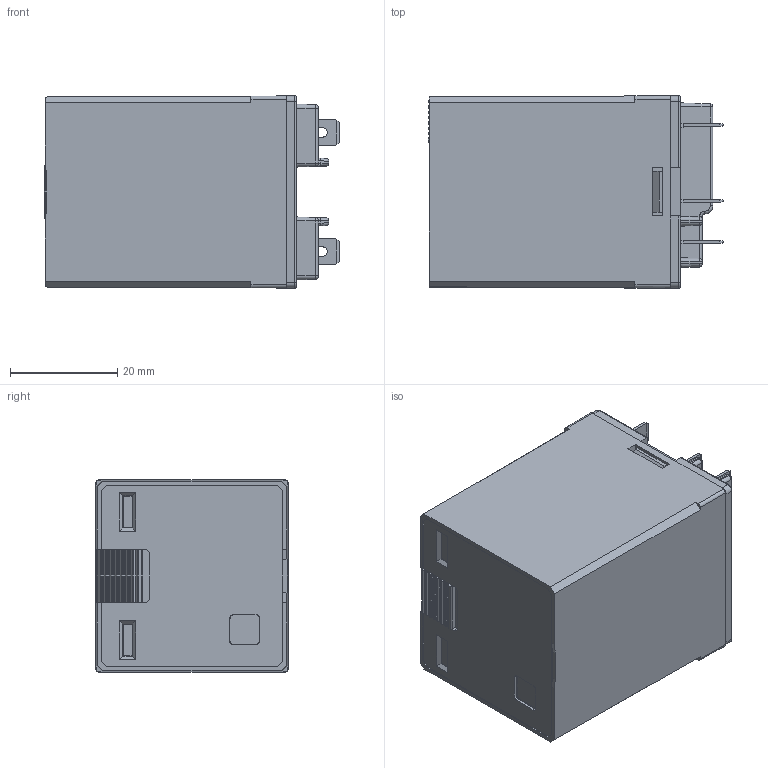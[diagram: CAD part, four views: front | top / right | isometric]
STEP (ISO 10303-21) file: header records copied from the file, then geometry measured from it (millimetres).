
FILE_DESCRIPTION (( 'STEP AP214' ), '1' );
FILE_NAME ('REH1BOLT 珨郪都敕湍偌聽.STEP', '2024-12-10T10:11:02', ( 'admin' ), ( '' ), 'SwSTEP 2.0', 'SolidWorks 2022', '' );
FILE_SCHEMA (( 'AUTOMOTIVE_DESIGN' ));
Length unit declared in the file: millimetre
Products named in the file (1): REH1BOLT 珨郪都敕湍偌聽
Bounding box: 54.98 x 35.8 x 35.8 mm (x, y, z)
Volume: 59152.1 mm3; surface area: 17246.3 mm2
Topology: 1 solids, 25 shells, 1091 faces, 2881 edges, 1882 vertices
Faces by surface type: plane 753, cylinder 209, bspline 97, torus 18, cone 14
Entity records: 38003 total; most frequent: CARTESIAN_POINT 11546, ORIENTED_EDGE 5762, DIRECTION 4977, EDGE_CURVE 2881, LINE 2127, VECTOR 2127, VERTEX_POINT 1882, AXIS2_PLACEMENT_3D 1425
